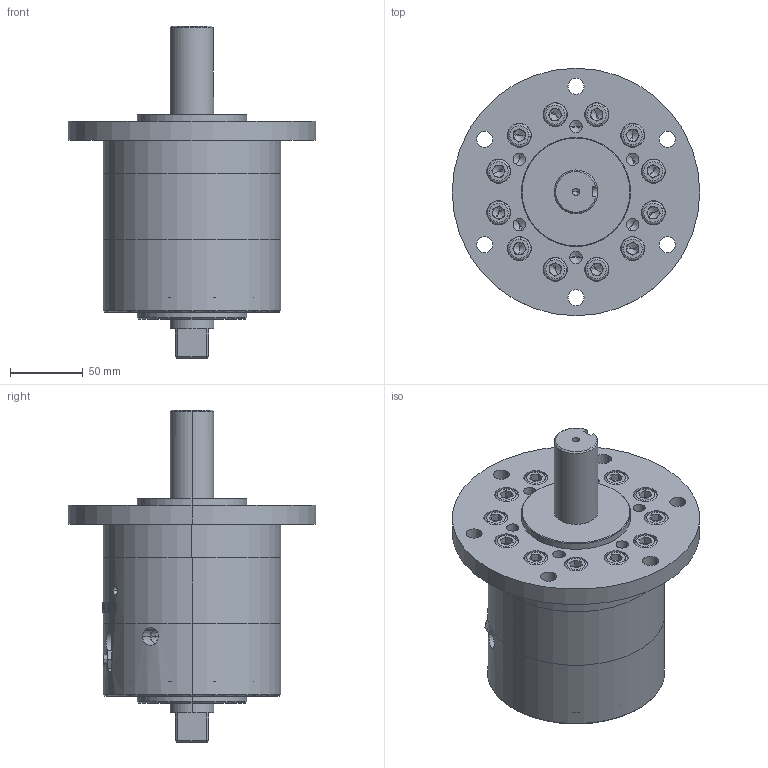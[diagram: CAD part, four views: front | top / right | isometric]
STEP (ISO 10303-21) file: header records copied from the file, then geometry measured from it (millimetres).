
FILE_DESCRIPTION (( 'STEP AP203' ), '1' );
FILE_NAME ('HRN100S-C.STEP', '2016-01-14T17:00:29', ( '' ), ( '' ), 'SwSTEP 2.0', 'SolidWorks 2014', '' );
FILE_SCHEMA (( 'CONFIG_CONTROL_DESIGN' ));
Length unit declared in the file: millimetre
Products named in the file (9): ISO 4762 M10 x 25; 零件4; 零件6; 零件10; 零件9; mark-100C; HRN100S-C; 零件2; 零件1
Assembly tree (32 placements, depth 2):
  HRN100S-C
    零件2
    零件1
    零件4
    零件6
    零件9
    ISO 4762 M10 x 25  x24
    零件10  x2
    mark-100C
Bounding box: 170 x 170 x 228 mm (x, y, z)
Volume: 1779130 mm3; surface area: 265643.6 mm2
Topology: 38 solids, 38 shells, 1068 faces, 2441 edges, 1457 vertices
Faces by surface type: plane 482, cylinder 279, cone 176, torus 96, bspline 35
Entity records: 17709 total; most frequent: CARTESIAN_POINT 6225, DIRECTION 2111, ORIENTED_EDGE 1998, EDGE_CURVE 999, AXIS2_PLACEMENT_3D 870, VERTEX_POINT 650, EDGE_LOOP 521, CIRCLE 453
